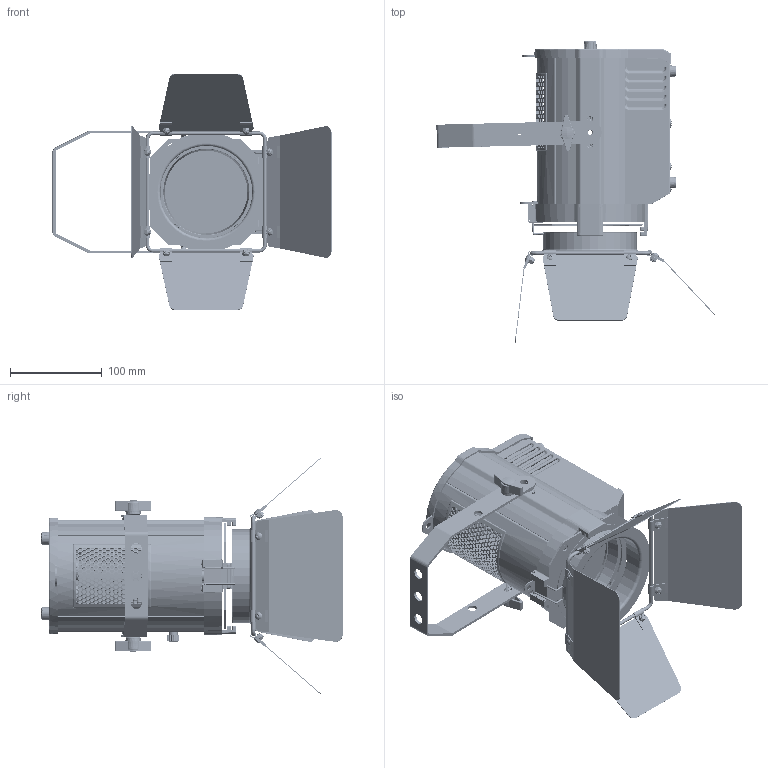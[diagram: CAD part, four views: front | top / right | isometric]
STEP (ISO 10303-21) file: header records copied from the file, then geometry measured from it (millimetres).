
FILE_DESCRIPTION((''),'2;1');
FILE_NAME('EVENT-120T00_ASM','2025-03-14T09:24:53',('ALY'),(''),'CREO PARAMETRIC BY PTC INC, 2022164','CREO PARAMETRIC BY PTC INC, 2022164','');
FILE_SCHEMA(('AUTOMOTIVE_DESIGN { 1 0 10303 214 1 1 1 1 }'));
Products named in the file (48): 0001; 000; 0005; 00; WWQQ1_22__S_; POWER-IN00; POWER-OUT00; 0008; KANONZHON_S_; XH-60_S_; 50W0001; 0009; M3X6-0001; M3X4-0001; M3X8-0001; 001; 0012; 0013; 0014; 0016; 0017; 0015_ASM; 002; M4X8-PRT0001; M4-0001; 50W0002_ASM; M3X8-0002; 0021; M3X60001; 50W0003; 200W00; 0023; M3X6-0002; _YC-15-000000002050001; 50W0004; M6X20T0001; M3X5-0001; 0025; M6X150001; EVENT-120T00_ASM
Assembly tree (136 placements, depth 4):
  EVENT-120T00_ASM
    0001
    000
    000
    000
    0005
    000
    00
    WWQQ1_22__S_
    POWER-IN00
    POWER-OUT00
    0008  x2
    KANONZHON_S_
    XH-60_S_
    50W0001
    0009  x2
    M3X6-0001  x10
    M3X4-0001  x12
    M3X8-0001  x10
    001
    00
    0012
    0013
    0014
    50W0002_ASM
      0015_ASM
        0016
        0017
      00  x16
      001  x2
      002  x2
      M4X8-PRT0001  x8
      M4-0001  x8
    M3X8-0002  x4
    0021
    002  x4
    M3X60001  x5
    50W0003  x2
    200W00  x2
    0023
    M3X6-0002  x7
    002  x4
    _YC-15-000000002050001  x2
    50W0004
    M6X20T0001  x2
    M3X5-0001  x4
    0025  x2
    M6X150001
Bounding box: 304.54 x 328.81 x 258.21 mm (x, y, z)
Volume: 473132.1 mm3; surface area: 572832 mm2
Topology: 156 solids, 156 shells, 10002 faces, 25404 edges, 15886 vertices
Faces by surface type: plane 3724, cylinder 2973, bspline 1879, cone 832, torus 450, sphere 126, extrusion 18
Entity records: 323463 total; most frequent: CARTESIAN_POINT 104598, ORIENTED_EDGE 29782, DIRECTION 24023, PRESENTATION_STYLE_ASSIGNMENT 18907, STYLED_ITEM 18329, EDGE_CURVE 14891, CURVE_STYLE 13858, VERTEX_POINT 9494
